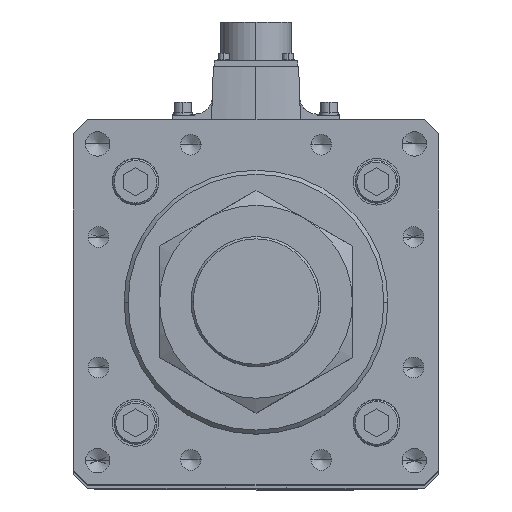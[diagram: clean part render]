
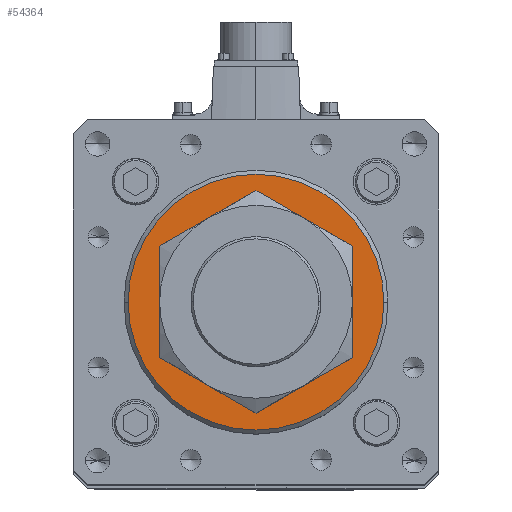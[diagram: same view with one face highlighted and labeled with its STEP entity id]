
A CAD part, top view. The second image highlights one B-rep face of the part: STEP entity #54364.
In plain terms, the highlighted planar face has unit normal (0, 0, 1).
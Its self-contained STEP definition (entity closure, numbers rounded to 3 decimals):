
#2352 = DIRECTION ( 'NONE',  ( 0., 0., -1. ) ) ;
#3074 = DIRECTION ( 'NONE',  ( 1., 0., 0. ) ) ;
#4931 = CARTESIAN_POINT ( 'NONE',  ( 40.5, 0., 1012. ) ) ;
#6467 = CARTESIAN_POINT ( 'NONE',  ( 0., 0., 1012. ) ) ;
#6753 = CARTESIAN_POINT ( 'NONE',  ( -63., 0., 1012. ) ) ;
#6778 = EDGE_CURVE ( 'NONE', #41548, #16162, #12349, .T. ) ;
#7934 = DIRECTION ( 'NONE',  ( 1., 0., 0. ) ) ;
#9652 = FACE_OUTER_BOUND ( 'NONE', #39789, .T. ) ;
#9721 = ORIENTED_EDGE ( 'NONE', *, *, #32243, .T. ) ;
#10476 = CARTESIAN_POINT ( 'NONE',  ( -40.5, 0., 1012. ) ) ;
#10984 = DIRECTION ( 'NONE',  ( 1., 0., 0. ) ) ;
#11567 = EDGE_CURVE ( 'NONE', #31515, #22906, #36016, .T. ) ;
#12349 = CIRCLE ( 'NONE', #24099, 63. ) ;
#14506 = DIRECTION ( 'NONE',  ( 0., 0., -1. ) ) ;
#15054 = AXIS2_PLACEMENT_3D ( 'NONE', #27953, #2352, #15284 ) ;
#15284 = DIRECTION ( 'NONE',  ( 1., 0., 0. ) ) ;
#15794 = CARTESIAN_POINT ( 'NONE',  ( 0., 0., 1012. ) ) ;
#16162 = VERTEX_POINT ( 'NONE', #54807 ) ;
#16334 = DIRECTION ( 'NONE',  ( 0., 0., 1. ) ) ;
#22487 = CIRCLE ( 'NONE', #15054, 40.5 ) ;
#22906 = VERTEX_POINT ( 'NONE', #4931 ) ;
#24099 = AXIS2_PLACEMENT_3D ( 'NONE', #15794, #16334, #3074 ) ;
#25326 = CIRCLE ( 'NONE', #34096, 63. ) ;
#27953 = CARTESIAN_POINT ( 'NONE',  ( 0., 0., 1012. ) ) ;
#30074 = ORIENTED_EDGE ( 'NONE', *, *, #38282, .T. ) ;
#30115 = ORIENTED_EDGE ( 'NONE', *, *, #11567, .T. ) ;
#31515 = VERTEX_POINT ( 'NONE', #10476 ) ;
#32074 = AXIS2_PLACEMENT_3D ( 'NONE', #44579, #39758, #44748 ) ;
#32243 = EDGE_CURVE ( 'NONE', #16162, #41548, #25326, .T. ) ;
#34096 = AXIS2_PLACEMENT_3D ( 'NONE', #54529, #37212, #7934 ) ;
#35481 = PLANE ( 'NONE',  #32074 ) ;
#36016 = CIRCLE ( 'NONE', #42516, 40.5 ) ;
#37212 = DIRECTION ( 'NONE',  ( 0., 0., 1. ) ) ;
#38282 = EDGE_CURVE ( 'NONE', #22906, #31515, #22487, .T. ) ;
#39758 = DIRECTION ( 'NONE',  ( 0., 0., 1. ) ) ;
#39789 = EDGE_LOOP ( 'NONE', ( #41558, #9721 ) ) ;
#41548 = VERTEX_POINT ( 'NONE', #6753 ) ;
#41558 = ORIENTED_EDGE ( 'NONE', *, *, #6778, .T. ) ;
#42516 = AXIS2_PLACEMENT_3D ( 'NONE', #6467, #14506, #10984 ) ;
#44579 = CARTESIAN_POINT ( 'NONE',  ( 0., 0., 1012. ) ) ;
#44748 = DIRECTION ( 'NONE',  ( 1., 0., 0. ) ) ;
#44993 = FACE_BOUND ( 'NONE', #48557, .T. ) ;
#48557 = EDGE_LOOP ( 'NONE', ( #30074, #30115 ) ) ;
#54364 = ADVANCED_FACE ( 'NONE', ( #44993, #9652 ), #35481, .T. ) ;
#54529 = CARTESIAN_POINT ( 'NONE',  ( 0., 0., 1012. ) ) ;
#54807 = CARTESIAN_POINT ( 'NONE',  ( 63., 0., 1012. ) ) ;
